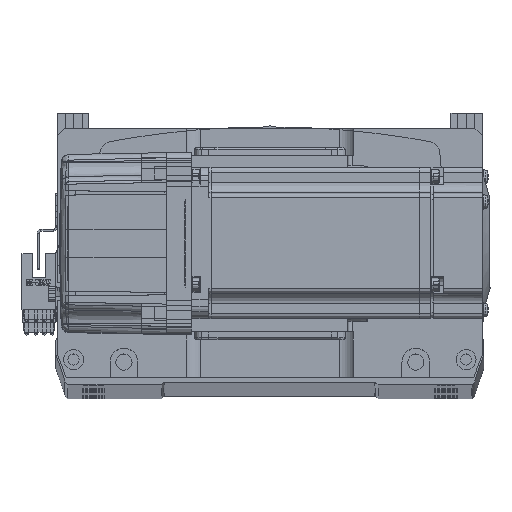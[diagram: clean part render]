
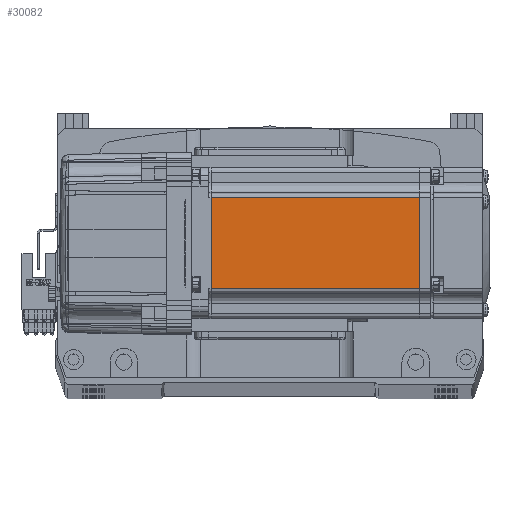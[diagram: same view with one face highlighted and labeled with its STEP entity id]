
A CAD part, top view. The second image highlights one B-rep face of the part: STEP entity #30082.
In plain terms, the highlighted planar face has unit normal (0, 0, 1) as drawn and (0, -1, 0) by its records, which use the part's own axes.
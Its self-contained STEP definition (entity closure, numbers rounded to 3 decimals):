
#2079 = ORIENTED_EDGE ( 'NONE', *, *, #28857, .T. ) ;
#2691 = EDGE_LOOP ( 'NONE', ( #2079, #4921, #31962, #35310 ) ) ;
#3031 = VERTEX_POINT ( 'NONE', #48640 ) ;
#4921 = ORIENTED_EDGE ( 'NONE', *, *, #57379, .T. ) ;
#6664 = DIRECTION ( 'NONE',  ( 0., 0., -1. ) ) ;
#7999 = LINE ( 'NONE', #37199, #47892 ) ;
#9121 = CARTESIAN_POINT ( 'NONE',  ( -7.75, -30., -18. ) ) ;
#9155 = DIRECTION ( 'NONE',  ( 0., 0., 1. ) ) ;
#10444 = EDGE_CURVE ( 'NONE', #3031, #11835, #61364, .T. ) ;
#11835 = VERTEX_POINT ( 'NONE', #9121 ) ;
#14443 = CARTESIAN_POINT ( 'NONE',  ( -90.45, -30., 18. ) ) ;
#16258 = DIRECTION ( 'NONE',  ( 1., 0., 0. ) ) ;
#17233 = CARTESIAN_POINT ( 'NONE',  ( -90.45, -30., -25. ) ) ;
#18326 = CARTESIAN_POINT ( 'NONE',  ( -6.5, -30., -25. ) ) ;
#18354 = VECTOR ( 'NONE', #9155, 1000. ) ;
#20098 = CARTESIAN_POINT ( 'NONE',  ( -7.75, -30., -25. ) ) ;
#20706 = VERTEX_POINT ( 'NONE', #14443 ) ;
#22871 = VERTEX_POINT ( 'NONE', #32959 ) ;
#23998 = DIRECTION ( 'NONE',  ( 0., 0., -1. ) ) ;
#28857 = EDGE_CURVE ( 'NONE', #11835, #22871, #58115, .T. ) ;
#29239 = PLANE ( 'NONE',  #56745 ) ;
#30082 = ADVANCED_FACE ( 'NONE', ( #38074 ), #29239, .T. ) ;
#31962 = ORIENTED_EDGE ( 'NONE', *, *, #50710, .T. ) ;
#32959 = CARTESIAN_POINT ( 'NONE',  ( -7.75, -30., 18. ) ) ;
#34547 = DIRECTION ( 'NONE',  ( 0., -1., 0. ) ) ;
#35310 = ORIENTED_EDGE ( 'NONE', *, *, #10444, .T. ) ;
#37199 = CARTESIAN_POINT ( 'NONE',  ( -6.5, -30., 18. ) ) ;
#38074 = FACE_OUTER_BOUND ( 'NONE', #2691, .T. ) ;
#42177 = CARTESIAN_POINT ( 'NONE',  ( -6.5, -30., -18. ) ) ;
#45803 = VECTOR ( 'NONE', #16258, 1000. ) ;
#47892 = VECTOR ( 'NONE', #70274, 1000. ) ;
#48640 = CARTESIAN_POINT ( 'NONE',  ( -90.45, -30., -18. ) ) ;
#50710 = EDGE_CURVE ( 'NONE', #20706, #3031, #69848, .T. ) ;
#56745 = AXIS2_PLACEMENT_3D ( 'NONE', #18326, #34547, #6664 ) ;
#57379 = EDGE_CURVE ( 'NONE', #22871, #20706, #7999, .T. ) ;
#58115 = LINE ( 'NONE', #20098, #18354 ) ;
#60254 = VECTOR ( 'NONE', #23998, 1000. ) ;
#61364 = LINE ( 'NONE', #42177, #45803 ) ;
#69848 = LINE ( 'NONE', #17233, #60254 ) ;
#70274 = DIRECTION ( 'NONE',  ( -1., 0., 0. ) ) ;
